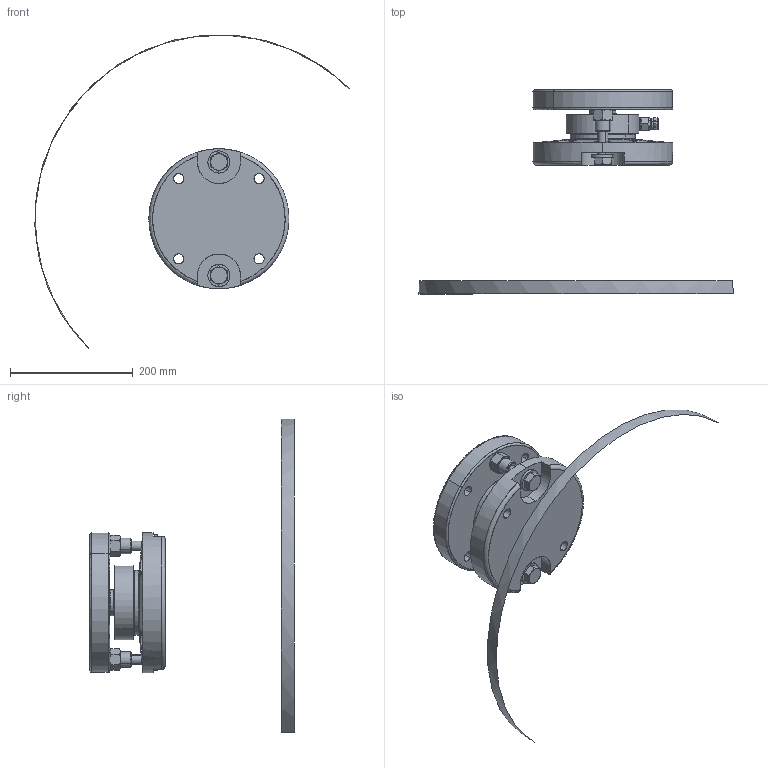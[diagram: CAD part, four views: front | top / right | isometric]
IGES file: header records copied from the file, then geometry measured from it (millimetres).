
Start section: SolidWorks IGES file using analytic representation for surfaces
Global section: file name: C:\0_Work\SolidWorks\HI HPLP Load Points\HI HPLP Load Point_44KLB-66KLB\Load Point_HI HPLP-XX-44KLB-66KLB.IGS; native system: SolidWorks 2013; preprocessor: SolidWorks 2013; author: vach01; date: 130927.094408; units: millimetre
Bounding box: 511.91 x 332.5 x 511.4 mm (x, y, z)
Surface area: 390899.2 mm2 (no closed solid volume)
Topology: 0 solids, 0 shells, 383 faces, 8604 edges, 8603 vertices
Faces by surface type: revolution 221, bspline 162
